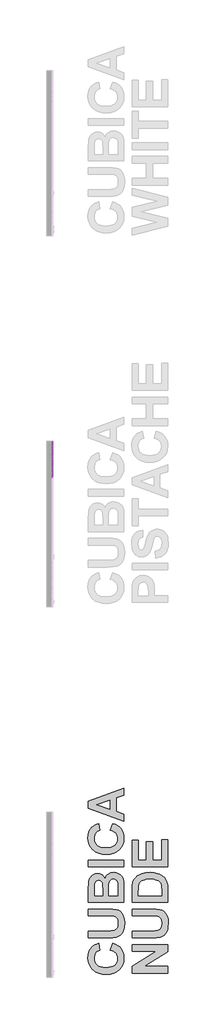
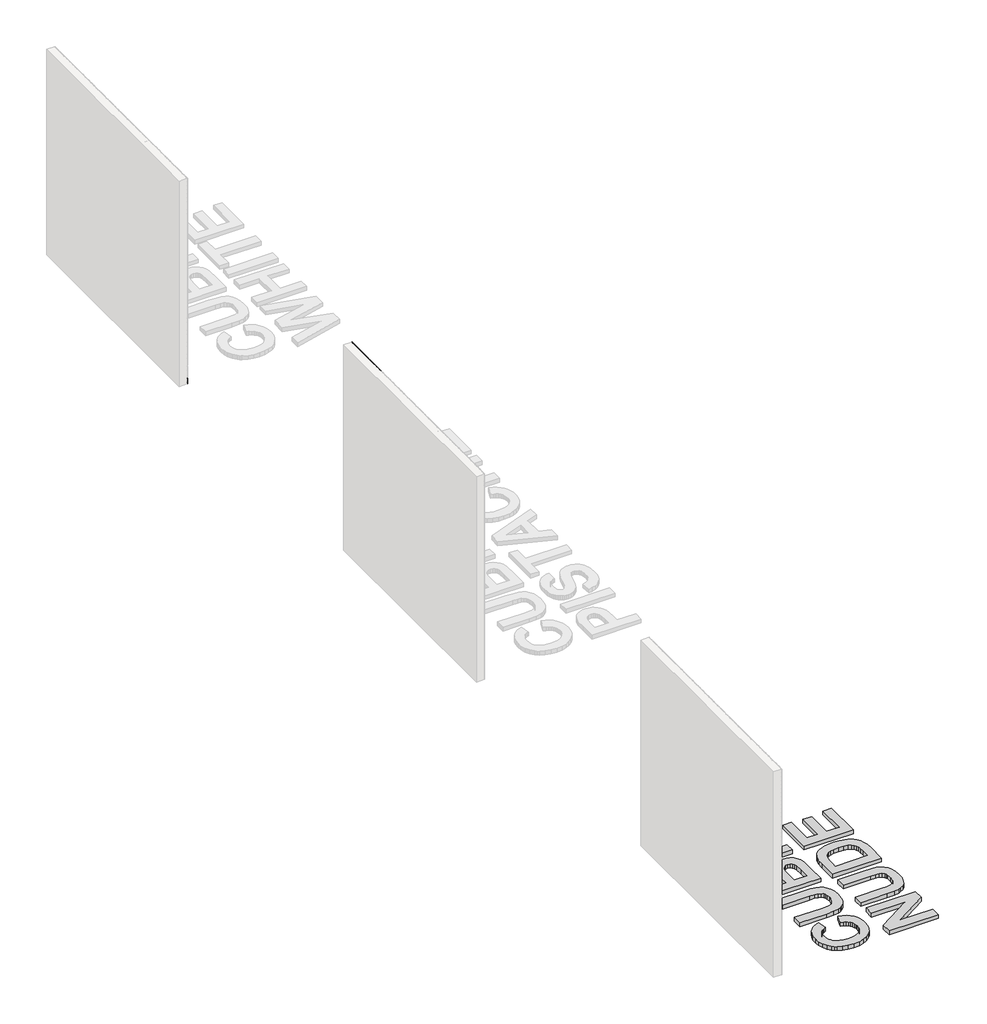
# One storey, part 97 of 121: 104 proxies.
"""IFC4 building model written with IfcOpenShell, lengths in millimetres."""

from ifc_helpers import new_model, si_unit, origin, origin_with_axes, place, context, project, spatial, polyline, outline, extrude, transform, mapped, element, save
from components import generic_models_b2b2c5c1, generic_models_9bf73f6f, generic_models_5d175859, generic_models_021229c9, generic_models_95f85f1d, generic_models_336a48c1, generic_models_3c04e8e5, generic_models_0bb79e7c, generic_models_61989c10, generic_models_65d4feed, generic_models_3c364290, generic_models_b212a934, generic_models_b652511d, generic_models_96c2da39

model = new_model("IFC4")

# Units and contexts
model_context = context("Model", 3, world=origin())
ifc_project = project(units=[si_unit("LENGTHUNIT", "METRE", prefix="MILLI")], contexts=[model_context])

# Site, building, storey
site = spatial("IfcSite", under=ifc_project)
building = spatial("IfcBuilding", under=site)
storey = spatial("IfcBuildingStorey", under=building, Name="PORTOBELLO - SHOWROOM", Elevation=0.0)

# Proxies
placement = place(None, origin())
generic_models_shape = generic_models_b2b2c5c1(model_context)
element("IfcBuildingElementProxy", 1, Name="PBSHOP - CUBICA PISTACHE 4,8X8,3 : CUBICA PISTACHE - POSIÇÃO 01", ObjectType="PBSHOP - CUBICA PISTACHE 4,8X8,3 : CUBICA PISTACHE - POSIÇÃO 01", at=placement, inside=storey, context=model_context, shape_type="MappedRepresentation", body=[
    mapped(generic_models_shape, transform((150369.5341846, 15203.7883805, 2486.3959564), x_axis=(0.0, 1.0, 0.0), y_axis=(0.0, 0.0, 1.0), z_axis=(1.0, 0.0, 0.0))),
])
element("IfcBuildingElementProxy", 2, Name="PBSHOP - CUBICA PISTACHE 4,8X8,3 : CUBICA PISTACHE - POSIÇÃO 01", ObjectType="PBSHOP - CUBICA PISTACHE 4,8X8,3 : CUBICA PISTACHE - POSIÇÃO 01", at=placement, inside=storey, context=model_context, shape_type="MappedRepresentation", body=[
    mapped(generic_models_shape, transform((150369.5341846, 15294.6276498, 2486.3959564), x_axis=(0.0, 1.0, 0.0), y_axis=(0.0, 0.0, 1.0), z_axis=(1.0, 0.0, 0.0))),
])
element("IfcBuildingElementProxy", 3, Name="PBSHOP - CUBICA PISTACHE 4,8X8,3 : CUBICA PISTACHE - POSIÇÃO 01", ObjectType="PBSHOP - CUBICA PISTACHE 4,8X8,3 : CUBICA PISTACHE - POSIÇÃO 01", at=placement, inside=storey, context=model_context, shape_type="MappedRepresentation", body=[
    mapped(generic_models_shape, transform((150369.5341846, 15385.466919, 2486.3959564), x_axis=(0.0, 1.0, 0.0), y_axis=(0.0, 0.0, 1.0), z_axis=(1.0, 0.0, 0.0))),
])
element("IfcBuildingElementProxy", 4, Name="PBSHOP - CUBICA PISTACHE 4,8X8,3 : CUBICA PISTACHE - POSIÇÃO 01", ObjectType="PBSHOP - CUBICA PISTACHE 4,8X8,3 : CUBICA PISTACHE - POSIÇÃO 01", at=placement, inside=storey, context=model_context, shape_type="MappedRepresentation", body=[
    mapped(generic_models_shape, transform((150369.5341846, 15476.3061883, 2486.3959564), x_axis=(0.0, 1.0, 0.0), y_axis=(0.0, 0.0, 1.0), z_axis=(1.0, 0.0, 0.0))),
])
element("IfcBuildingElementProxy", 5, Name="PBSHOP - CUBICA PISTACHE 4,8X8,3 : CUBICA PISTACHE - POSIÇÃO 01", ObjectType="PBSHOP - CUBICA PISTACHE 4,8X8,3 : CUBICA PISTACHE - POSIÇÃO 01", at=placement, inside=storey, context=model_context, shape_type="MappedRepresentation", body=[
    mapped(generic_models_shape, transform((150369.5341846, 15567.1454575, 2486.3959564), x_axis=(0.0, 1.0, 0.0), y_axis=(0.0, 0.0, 1.0), z_axis=(1.0, 0.0, 0.0))),
])
element("IfcBuildingElementProxy", 6, Name="PBSHOP - CUBICA PISTACHE 4,8X8,3 : CUBICA PISTACHE - POSIÇÃO 01", ObjectType="PBSHOP - CUBICA PISTACHE 4,8X8,3 : CUBICA PISTACHE - POSIÇÃO 01", at=placement, inside=storey, context=model_context, shape_type="MappedRepresentation", body=[
    mapped(generic_models_shape, transform((150369.5341846, 15067.5294767, 2565.3305948), x_axis=(0.0, 1.0, 0.0), y_axis=(0.0, 0.0, 1.0), z_axis=(1.0, 0.0, 0.0))),
])
element("IfcBuildingElementProxy", 7, Name="PBSHOP - CUBICA PISTACHE 4,8X8,3 : CUBICA PISTACHE - POSIÇÃO 01", ObjectType="PBSHOP - CUBICA PISTACHE 4,8X8,3 : CUBICA PISTACHE - POSIÇÃO 01", at=placement, inside=storey, context=model_context, shape_type="MappedRepresentation", body=[
    mapped(generic_models_shape, transform((150369.5341846, 15158.3687459, 2565.3305948), x_axis=(0.0, 1.0, 0.0), y_axis=(0.0, 0.0, 1.0), z_axis=(1.0, 0.0, 0.0))),
])
element("IfcBuildingElementProxy", 8, Name="PBSHOP - CUBICA PISTACHE 4,8X8,3 : CUBICA PISTACHE - POSIÇÃO 01", ObjectType="PBSHOP - CUBICA PISTACHE 4,8X8,3 : CUBICA PISTACHE - POSIÇÃO 01", at=placement, inside=storey, context=model_context, shape_type="MappedRepresentation", body=[
    mapped(generic_models_shape, transform((150369.5341846, 15249.2080152, 2565.3305948), x_axis=(0.0, 1.0, 0.0), y_axis=(0.0, 0.0, 1.0), z_axis=(1.0, 0.0, 0.0))),
])
element("IfcBuildingElementProxy", 9, Name="PBSHOP - CUBICA PISTACHE 4,8X8,3 : CUBICA PISTACHE - POSIÇÃO 01", ObjectType="PBSHOP - CUBICA PISTACHE 4,8X8,3 : CUBICA PISTACHE - POSIÇÃO 01", at=placement, inside=storey, context=model_context, shape_type="MappedRepresentation", body=[
    mapped(generic_models_shape, transform((150369.5341846, 15340.0472844, 2565.3305948), x_axis=(0.0, 1.0, 0.0), y_axis=(0.0, 0.0, 1.0), z_axis=(1.0, 0.0, 0.0))),
])
element("IfcBuildingElementProxy", 10, Name="PBSHOP - CUBICA PISTACHE 4,8X8,3 : CUBICA PISTACHE - POSIÇÃO 01", ObjectType="PBSHOP - CUBICA PISTACHE 4,8X8,3 : CUBICA PISTACHE - POSIÇÃO 01", at=placement, inside=storey, context=model_context, shape_type="MappedRepresentation", body=[
    mapped(generic_models_shape, transform((150369.5341846, 15430.8865536, 2565.3305948), x_axis=(0.0, 1.0, 0.0), y_axis=(0.0, 0.0, 1.0), z_axis=(1.0, 0.0, 0.0))),
])
element("IfcBuildingElementProxy", 11, Name="PBSHOP - CUBICA PISTACHE 4,8X8,3 : CUBICA PISTACHE - POSIÇÃO 01", ObjectType="PBSHOP - CUBICA PISTACHE 4,8X8,3 : CUBICA PISTACHE - POSIÇÃO 01", at=placement, inside=storey, context=model_context, shape_type="MappedRepresentation", body=[
    mapped(generic_models_shape, transform((150369.5341846, 15521.7258229, 2565.3305948), x_axis=(0.0, 1.0, 0.0), y_axis=(0.0, 0.0, 1.0), z_axis=(1.0, 0.0, 0.0))),
])
element("IfcBuildingElementProxy", 12, Name="PBSHOP - CUBICA PISTACHE 4,8X8,3 : CUBICA PISTACHE - POSIÇÃO 01", ObjectType="PBSHOP - CUBICA PISTACHE 4,8X8,3 : CUBICA PISTACHE - POSIÇÃO 01", at=placement, inside=storey, context=model_context, shape_type="MappedRepresentation", body=[
    mapped(generic_models_shape, transform((150369.5341846, 15022.109842, 2644.2652332), x_axis=(0.0, 1.0, 0.0), y_axis=(0.0, 0.0, 1.0), z_axis=(1.0, 0.0, 0.0))),
])
element("IfcBuildingElementProxy", 13, Name="PBSHOP - CUBICA PISTACHE 4,8X8,3 : CUBICA PISTACHE - POSIÇÃO 01", ObjectType="PBSHOP - CUBICA PISTACHE 4,8X8,3 : CUBICA PISTACHE - POSIÇÃO 01", at=placement, inside=storey, context=model_context, shape_type="MappedRepresentation", body=[
    mapped(generic_models_shape, transform((150369.5341846, 15112.9491113, 2644.2652332), x_axis=(0.0, 1.0, 0.0), y_axis=(0.0, 0.0, 1.0), z_axis=(1.0, 0.0, 0.0))),
])
element("IfcBuildingElementProxy", 14, Name="PBSHOP - CUBICA PISTACHE 4,8X8,3 : CUBICA PISTACHE - POSIÇÃO 01", ObjectType="PBSHOP - CUBICA PISTACHE 4,8X8,3 : CUBICA PISTACHE - POSIÇÃO 01", at=placement, inside=storey, context=model_context, shape_type="MappedRepresentation", body=[
    mapped(generic_models_shape, transform((150369.5341846, 15203.7883805, 2644.2652332), x_axis=(0.0, 1.0, 0.0), y_axis=(0.0, 0.0, 1.0), z_axis=(1.0, 0.0, 0.0))),
])
element("IfcBuildingElementProxy", 15, Name="PBSHOP - CUBICA PISTACHE 4,8X8,3 : CUBICA PISTACHE - POSIÇÃO 01", ObjectType="PBSHOP - CUBICA PISTACHE 4,8X8,3 : CUBICA PISTACHE - POSIÇÃO 01", at=placement, inside=storey, context=model_context, shape_type="MappedRepresentation", body=[
    mapped(generic_models_shape, transform((150369.5341846, 15294.6276498, 2644.2652332), x_axis=(0.0, 1.0, 0.0), y_axis=(0.0, 0.0, 1.0), z_axis=(1.0, 0.0, 0.0))),
])
element("IfcBuildingElementProxy", 16, Name="PBSHOP - CUBICA PISTACHE 4,8X8,3 : CUBICA PISTACHE - POSIÇÃO 01", ObjectType="PBSHOP - CUBICA PISTACHE 4,8X8,3 : CUBICA PISTACHE - POSIÇÃO 01", at=placement, inside=storey, context=model_context, shape_type="MappedRepresentation", body=[
    mapped(generic_models_shape, transform((150369.5341846, 15385.466919, 2644.2652332), x_axis=(0.0, 1.0, 0.0), y_axis=(0.0, 0.0, 1.0), z_axis=(1.0, 0.0, 0.0))),
])
element("IfcBuildingElementProxy", 17, Name="PBSHOP - CUBICA PISTACHE 4,8X8,3 : CUBICA PISTACHE - POSIÇÃO 01", ObjectType="PBSHOP - CUBICA PISTACHE 4,8X8,3 : CUBICA PISTACHE - POSIÇÃO 01", at=placement, inside=storey, context=model_context, shape_type="MappedRepresentation", body=[
    mapped(generic_models_shape, transform((150369.5341846, 15476.3061883, 2644.2652332), x_axis=(0.0, 1.0, 0.0), y_axis=(0.0, 0.0, 1.0), z_axis=(1.0, 0.0, 0.0))),
])
element("IfcBuildingElementProxy", 18, Name="PBSHOP - CUBICA PISTACHE 4,8X8,3 : CUBICA PISTACHE - POSIÇÃO 01", ObjectType="PBSHOP - CUBICA PISTACHE 4,8X8,3 : CUBICA PISTACHE - POSIÇÃO 01", at=placement, inside=storey, context=model_context, shape_type="MappedRepresentation", body=[
    mapped(generic_models_shape, transform((150369.5341846, 15567.1454575, 2644.2652332), x_axis=(0.0, 1.0, 0.0), y_axis=(0.0, 0.0, 1.0), z_axis=(1.0, 0.0, 0.0))),
])
generic_models_2_shape = generic_models_9bf73f6f(model_context)
element("IfcBuildingElementProxy", 19, Name="PBSHOP - CUBICA PISTACHE 4,8X8,3 : CUBICA PISTACHE - POSIÇÃO 03", ObjectType="PBSHOP - CUBICA PISTACHE 4,8X8,3 : CUBICA PISTACHE - POSIÇÃO 03", at=placement, inside=storey, context=model_context, shape_type="MappedRepresentation", body=[
    mapped(generic_models_2_shape, transform((150369.5341846, 15090.2414531, 2446.8874268), x_axis=(0.0, 1.0, 0.0), y_axis=(0.0, 0.0, 1.0), z_axis=(1.0, 0.0, 0.0))),
])
element("IfcBuildingElementProxy", 20, Name="PBSHOP - CUBICA PISTACHE 4,8X8,3 : CUBICA PISTACHE - POSIÇÃO 03", ObjectType="PBSHOP - CUBICA PISTACHE 4,8X8,3 : CUBICA PISTACHE - POSIÇÃO 03", at=placement, inside=storey, context=model_context, shape_type="MappedRepresentation", body=[
    mapped(generic_models_2_shape, transform((150369.5341846, 15181.0807224, 2446.8874268), x_axis=(0.0, 1.0, 0.0), y_axis=(0.0, 0.0, 1.0), z_axis=(1.0, 0.0, 0.0))),
])
element("IfcBuildingElementProxy", 21, Name="PBSHOP - CUBICA PISTACHE 4,8X8,3 : CUBICA PISTACHE - POSIÇÃO 03", ObjectType="PBSHOP - CUBICA PISTACHE 4,8X8,3 : CUBICA PISTACHE - POSIÇÃO 03", at=placement, inside=storey, context=model_context, shape_type="MappedRepresentation", body=[
    mapped(generic_models_2_shape, transform((150369.5341846, 15271.9199916, 2446.8874268), x_axis=(0.0, 1.0, 0.0), y_axis=(0.0, 0.0, 1.0), z_axis=(1.0, 0.0, 0.0))),
])
element("IfcBuildingElementProxy", 22, Name="PBSHOP - CUBICA PISTACHE 4,8X8,3 : CUBICA PISTACHE - POSIÇÃO 03", ObjectType="PBSHOP - CUBICA PISTACHE 4,8X8,3 : CUBICA PISTACHE - POSIÇÃO 03", at=placement, inside=storey, context=model_context, shape_type="MappedRepresentation", body=[
    mapped(generic_models_2_shape, transform((150369.5341846, 15362.7592609, 2446.8874268), x_axis=(0.0, 1.0, 0.0), y_axis=(0.0, 0.0, 1.0), z_axis=(1.0, 0.0, 0.0))),
])
element("IfcBuildingElementProxy", 23, Name="PBSHOP - CUBICA PISTACHE 4,8X8,3 : CUBICA PISTACHE - POSIÇÃO 03", ObjectType="PBSHOP - CUBICA PISTACHE 4,8X8,3 : CUBICA PISTACHE - POSIÇÃO 03", at=placement, inside=storey, context=model_context, shape_type="MappedRepresentation", body=[
    mapped(generic_models_2_shape, transform((150369.5341846, 15453.5985301, 2446.8874268), x_axis=(0.0, 1.0, 0.0), y_axis=(0.0, 0.0, 1.0), z_axis=(1.0, 0.0, 0.0))),
])
element("IfcBuildingElementProxy", 24, Name="PBSHOP - CUBICA PISTACHE 4,8X8,3 : CUBICA PISTACHE - POSIÇÃO 03", ObjectType="PBSHOP - CUBICA PISTACHE 4,8X8,3 : CUBICA PISTACHE - POSIÇÃO 03", at=placement, inside=storey, context=model_context, shape_type="MappedRepresentation", body=[
    mapped(generic_models_2_shape, transform((150369.5341846, 15544.4377994, 2446.8874268), x_axis=(0.0, 1.0, 0.0), y_axis=(0.0, 0.0, 1.0), z_axis=(1.0, 0.0, 0.0))),
])
element("IfcBuildingElementProxy", 25, Name="PBSHOP - CUBICA PISTACHE 4,8X8,3 : CUBICA PISTACHE - POSIÇÃO 03", ObjectType="PBSHOP - CUBICA PISTACHE 4,8X8,3 : CUBICA PISTACHE - POSIÇÃO 03", at=placement, inside=storey, context=model_context, shape_type="MappedRepresentation", body=[
    mapped(generic_models_2_shape, transform((150369.5341846, 15044.8218185, 2525.8220652), x_axis=(0.0, 1.0, 0.0), y_axis=(0.0, 0.0, 1.0), z_axis=(1.0, 0.0, 0.0))),
])
element("IfcBuildingElementProxy", 26, Name="PBSHOP - CUBICA PISTACHE 4,8X8,3 : CUBICA PISTACHE - POSIÇÃO 03", ObjectType="PBSHOP - CUBICA PISTACHE 4,8X8,3 : CUBICA PISTACHE - POSIÇÃO 03", at=placement, inside=storey, context=model_context, shape_type="MappedRepresentation", body=[
    mapped(generic_models_2_shape, transform((150369.5341846, 15135.6610878, 2525.8220652), x_axis=(0.0, 1.0, 0.0), y_axis=(0.0, 0.0, 1.0), z_axis=(1.0, 0.0, 0.0))),
])
element("IfcBuildingElementProxy", 27, Name="PBSHOP - CUBICA PISTACHE 4,8X8,3 : CUBICA PISTACHE - POSIÇÃO 03", ObjectType="PBSHOP - CUBICA PISTACHE 4,8X8,3 : CUBICA PISTACHE - POSIÇÃO 03", at=placement, inside=storey, context=model_context, shape_type="MappedRepresentation", body=[
    mapped(generic_models_2_shape, transform((150369.5341846, 15226.500357, 2525.8220652), x_axis=(0.0, 1.0, 0.0), y_axis=(0.0, 0.0, 1.0), z_axis=(1.0, 0.0, 0.0))),
])
element("IfcBuildingElementProxy", 28, Name="PBSHOP - CUBICA PISTACHE 4,8X8,3 : CUBICA PISTACHE - POSIÇÃO 03", ObjectType="PBSHOP - CUBICA PISTACHE 4,8X8,3 : CUBICA PISTACHE - POSIÇÃO 03", at=placement, inside=storey, context=model_context, shape_type="MappedRepresentation", body=[
    mapped(generic_models_2_shape, transform((150369.5341846, 15317.3396263, 2525.8220652), x_axis=(0.0, 1.0, 0.0), y_axis=(0.0, 0.0, 1.0), z_axis=(1.0, 0.0, 0.0))),
])
element("IfcBuildingElementProxy", 29, Name="PBSHOP - CUBICA PISTACHE 4,8X8,3 : CUBICA PISTACHE - POSIÇÃO 03", ObjectType="PBSHOP - CUBICA PISTACHE 4,8X8,3 : CUBICA PISTACHE - POSIÇÃO 03", at=placement, inside=storey, context=model_context, shape_type="MappedRepresentation", body=[
    mapped(generic_models_2_shape, transform((150369.5341846, 15408.1788955, 2525.8220652), x_axis=(0.0, 1.0, 0.0), y_axis=(0.0, 0.0, 1.0), z_axis=(1.0, 0.0, 0.0))),
])
element("IfcBuildingElementProxy", 30, Name="PBSHOP - CUBICA PISTACHE 4,8X8,3 : CUBICA PISTACHE - POSIÇÃO 03", ObjectType="PBSHOP - CUBICA PISTACHE 4,8X8,3 : CUBICA PISTACHE - POSIÇÃO 03", at=placement, inside=storey, context=model_context, shape_type="MappedRepresentation", body=[
    mapped(generic_models_2_shape, transform((150369.5341846, 15499.0181647, 2525.8220652), x_axis=(0.0, 1.0, 0.0), y_axis=(0.0, 0.0, 1.0), z_axis=(1.0, 0.0, 0.0))),
])
element("IfcBuildingElementProxy", 31, Name="PBSHOP - CUBICA PISTACHE 4,8X8,3 : CUBICA PISTACHE - POSIÇÃO 03", ObjectType="PBSHOP - CUBICA PISTACHE 4,8X8,3 : CUBICA PISTACHE - POSIÇÃO 03", at=placement, inside=storey, context=model_context, shape_type="MappedRepresentation", body=[
    mapped(generic_models_2_shape, transform((150369.5341846, 15090.2414531, 2604.7567035), x_axis=(0.0, 1.0, 0.0), y_axis=(0.0, 0.0, 1.0), z_axis=(1.0, 0.0, 0.0))),
])
element("IfcBuildingElementProxy", 32, Name="PBSHOP - CUBICA PISTACHE 4,8X8,3 : CUBICA PISTACHE - POSIÇÃO 03", ObjectType="PBSHOP - CUBICA PISTACHE 4,8X8,3 : CUBICA PISTACHE - POSIÇÃO 03", at=placement, inside=storey, context=model_context, shape_type="MappedRepresentation", body=[
    mapped(generic_models_2_shape, transform((150369.5341846, 15181.0807224, 2604.7567035), x_axis=(0.0, 1.0, 0.0), y_axis=(0.0, 0.0, 1.0), z_axis=(1.0, 0.0, 0.0))),
])
element("IfcBuildingElementProxy", 33, Name="PBSHOP - CUBICA PISTACHE 4,8X8,3 : CUBICA PISTACHE - POSIÇÃO 03", ObjectType="PBSHOP - CUBICA PISTACHE 4,8X8,3 : CUBICA PISTACHE - POSIÇÃO 03", at=placement, inside=storey, context=model_context, shape_type="MappedRepresentation", body=[
    mapped(generic_models_2_shape, transform((150369.5341846, 15271.9199916, 2604.7567035), x_axis=(0.0, 1.0, 0.0), y_axis=(0.0, 0.0, 1.0), z_axis=(1.0, 0.0, 0.0))),
])
element("IfcBuildingElementProxy", 34, Name="PBSHOP - CUBICA PISTACHE 4,8X8,3 : CUBICA PISTACHE - POSIÇÃO 03", ObjectType="PBSHOP - CUBICA PISTACHE 4,8X8,3 : CUBICA PISTACHE - POSIÇÃO 03", at=placement, inside=storey, context=model_context, shape_type="MappedRepresentation", body=[
    mapped(generic_models_2_shape, transform((150369.5341846, 15362.7592609, 2604.7567035), x_axis=(0.0, 1.0, 0.0), y_axis=(0.0, 0.0, 1.0), z_axis=(1.0, 0.0, 0.0))),
])
element("IfcBuildingElementProxy", 35, Name="PBSHOP - CUBICA PISTACHE 4,8X8,3 : CUBICA PISTACHE - POSIÇÃO 03", ObjectType="PBSHOP - CUBICA PISTACHE 4,8X8,3 : CUBICA PISTACHE - POSIÇÃO 03", at=placement, inside=storey, context=model_context, shape_type="MappedRepresentation", body=[
    mapped(generic_models_2_shape, transform((150369.5341846, 15453.5985301, 2604.7567035), x_axis=(0.0, 1.0, 0.0), y_axis=(0.0, 0.0, 1.0), z_axis=(1.0, 0.0, 0.0))),
])
element("IfcBuildingElementProxy", 36, Name="PBSHOP - CUBICA PISTACHE 4,8X8,3 : CUBICA PISTACHE - POSIÇÃO 03", ObjectType="PBSHOP - CUBICA PISTACHE 4,8X8,3 : CUBICA PISTACHE - POSIÇÃO 03", at=placement, inside=storey, context=model_context, shape_type="MappedRepresentation", body=[
    mapped(generic_models_2_shape, transform((150369.5341846, 15544.4377994, 2604.7567035), x_axis=(0.0, 1.0, 0.0), y_axis=(0.0, 0.0, 1.0), z_axis=(1.0, 0.0, 0.0))),
])
element("IfcBuildingElementProxy", 37, Name="PBSHOP - CUBICA WHITE 4,8X8,3 : CUBICA WHITE - POSIÇÃO 01", ObjectType="PBSHOP - CUBICA WHITE 4,8X8,3 : CUBICA WHITE - POSIÇÃO 01", at=placement, inside=storey, context=model_context, shape_type="MappedRepresentation", body=[
    mapped(generic_models_shape, transform((150369.5341846, 19196.5477456, 39.4221668), x_axis=(0.0, 1.0, 0.0), y_axis=(0.0, 0.0, 1.0), z_axis=(1.0, 0.0, 0.0))),
])
element("IfcBuildingElementProxy", 38, Name="PBSHOP - CUBICA WHITE 4,8X8,3 : CUBICA WHITE - POSIÇÃO 01", ObjectType="PBSHOP - CUBICA WHITE 4,8X8,3 : CUBICA WHITE - POSIÇÃO 01", at=placement, inside=storey, context=model_context, shape_type="MappedRepresentation", body=[
    mapped(generic_models_shape, transform((150369.5341846, 19287.3870148, 39.4221668), x_axis=(0.0, 1.0, 0.0), y_axis=(0.0, 0.0, 1.0), z_axis=(1.0, 0.0, 0.0))),
])
element("IfcBuildingElementProxy", 39, Name="PBSHOP - CUBICA WHITE 4,8X8,3 : CUBICA WHITE - POSIÇÃO 01", ObjectType="PBSHOP - CUBICA WHITE 4,8X8,3 : CUBICA WHITE - POSIÇÃO 01", at=placement, inside=storey, context=model_context, shape_type="MappedRepresentation", body=[
    mapped(generic_models_shape, transform((150369.5341846, 19378.2262841, 39.4221668), x_axis=(0.0, 1.0, 0.0), y_axis=(0.0, 0.0, 1.0), z_axis=(1.0, 0.0, 0.0))),
])
element("IfcBuildingElementProxy", 40, Name="PBSHOP - CUBICA WHITE 4,8X8,3 : CUBICA WHITE - POSIÇÃO 01", ObjectType="PBSHOP - CUBICA WHITE 4,8X8,3 : CUBICA WHITE - POSIÇÃO 01", at=placement, inside=storey, context=model_context, shape_type="MappedRepresentation", body=[
    mapped(generic_models_shape, transform((150369.5341846, 19469.0655533, 39.4221668), x_axis=(0.0, 1.0, 0.0), y_axis=(0.0, 0.0, 1.0), z_axis=(1.0, 0.0, 0.0))),
])
element("IfcBuildingElementProxy", 41, Name="PBSHOP - CUBICA WHITE 4,8X8,3 : CUBICA WHITE - POSIÇÃO 01", ObjectType="PBSHOP - CUBICA WHITE 4,8X8,3 : CUBICA WHITE - POSIÇÃO 01", at=placement, inside=storey, context=model_context, shape_type="MappedRepresentation", body=[
    mapped(generic_models_shape, transform((150369.5341846, 19559.9048225, 39.4221668), x_axis=(0.0, 1.0, 0.0), y_axis=(0.0, 0.0, 1.0), z_axis=(1.0, 0.0, 0.0))),
])
element("IfcBuildingElementProxy", 42, Name="PBSHOP - CUBICA WHITE 4,8X8,3 : CUBICA WHITE - POSIÇÃO 01", ObjectType="PBSHOP - CUBICA WHITE 4,8X8,3 : CUBICA WHITE - POSIÇÃO 01", at=placement, inside=storey, context=model_context, shape_type="MappedRepresentation", body=[
    mapped(generic_models_shape, transform((150369.5341846, 19650.7440918, 39.4221668), x_axis=(0.0, 1.0, 0.0), y_axis=(0.0, 0.0, 1.0), z_axis=(1.0, 0.0, 0.0))),
])
element("IfcBuildingElementProxy", 43, Name="PBSHOP - CUBICA WHITE 4,8X8,3 : CUBICA WHITE - POSIÇÃO 01", ObjectType="PBSHOP - CUBICA WHITE 4,8X8,3 : CUBICA WHITE - POSIÇÃO 01", at=placement, inside=storey, context=model_context, shape_type="MappedRepresentation", body=[
    mapped(generic_models_shape, transform((150369.5341846, 19741.583361, 39.4221668), x_axis=(0.0, 1.0, 0.0), y_axis=(0.0, 0.0, 1.0), z_axis=(1.0, 0.0, 0.0))),
])
element("IfcBuildingElementProxy", 44, Name="PBSHOP - CUBICA WHITE 4,8X8,3 : CUBICA WHITE - POSIÇÃO 01", ObjectType="PBSHOP - CUBICA WHITE 4,8X8,3 : CUBICA WHITE - POSIÇÃO 01", at=placement, inside=storey, context=model_context, shape_type="MappedRepresentation", body=[
    mapped(generic_models_shape, transform((150369.5341846, 19832.4226303, 39.4221668), x_axis=(0.0, 1.0, 0.0), y_axis=(0.0, 0.0, 1.0), z_axis=(1.0, 0.0, 0.0))),
])
element("IfcBuildingElementProxy", 45, Name="PBSHOP - CUBICA WHITE 4,8X8,3 : CUBICA WHITE - POSIÇÃO 01", ObjectType="PBSHOP - CUBICA WHITE 4,8X8,3 : CUBICA WHITE - POSIÇÃO 01", at=placement, inside=storey, context=model_context, shape_type="MappedRepresentation", body=[
    mapped(generic_models_shape, transform((150369.5341846, 19923.2618995, 39.4221668), x_axis=(0.0, 1.0, 0.0), y_axis=(0.0, 0.0, 1.0), z_axis=(1.0, 0.0, 0.0))),
])
generic_models_3_shape = generic_models_5d175859(model_context)
element("IfcBuildingElementProxy", 46, Name="PBSHOP - CUBICA PISTACHE 4,8X8,3 : CUBICA PISTACHE - POSIÇÃO 01", ObjectType="PBSHOP - CUBICA PISTACHE 4,8X8,3 : CUBICA PISTACHE - POSIÇÃO 01", at=placement, inside=storey, context=model_context, shape_type="MappedRepresentation", body=[
    mapped(generic_models_3_shape, transform((150369.5341846, 15158.3730642, 2486.3959564), x_axis=(0.0, -1.0, 0.0), y_axis=(0.0, 0.0, -1.0), z_axis=(1.0, 0.0, 0.0))),
])
element("IfcBuildingElementProxy", 47, Name="PBSHOP - CUBICA PISTACHE 4,8X8,3 : CUBICA PISTACHE - POSIÇÃO 01", ObjectType="PBSHOP - CUBICA PISTACHE 4,8X8,3 : CUBICA PISTACHE - POSIÇÃO 01", at=placement, inside=storey, context=model_context, shape_type="MappedRepresentation", body=[
    mapped(generic_models_3_shape, transform((150369.5341846, 15249.2123335, 2486.3959564), x_axis=(0.0, -1.0, 0.0), y_axis=(0.0, 0.0, -1.0), z_axis=(1.0, 0.0, 0.0))),
])
element("IfcBuildingElementProxy", 48, Name="PBSHOP - CUBICA PISTACHE 4,8X8,3 : CUBICA PISTACHE - POSIÇÃO 01", ObjectType="PBSHOP - CUBICA PISTACHE 4,8X8,3 : CUBICA PISTACHE - POSIÇÃO 01", at=placement, inside=storey, context=model_context, shape_type="MappedRepresentation", body=[
    mapped(generic_models_3_shape, transform((150369.5341846, 15340.0516027, 2486.3959564), x_axis=(0.0, -1.0, 0.0), y_axis=(0.0, 0.0, -1.0), z_axis=(1.0, 0.0, 0.0))),
])
element("IfcBuildingElementProxy", 49, Name="PBSHOP - CUBICA PISTACHE 4,8X8,3 : CUBICA PISTACHE - POSIÇÃO 01", ObjectType="PBSHOP - CUBICA PISTACHE 4,8X8,3 : CUBICA PISTACHE - POSIÇÃO 01", at=placement, inside=storey, context=model_context, shape_type="MappedRepresentation", body=[
    mapped(generic_models_3_shape, transform((150369.5341846, 15430.890872, 2486.3959564), x_axis=(0.0, -1.0, 0.0), y_axis=(0.0, 0.0, -1.0), z_axis=(1.0, 0.0, 0.0))),
])
element("IfcBuildingElementProxy", 50, Name="PBSHOP - CUBICA PISTACHE 4,8X8,3 : CUBICA PISTACHE - POSIÇÃO 01", ObjectType="PBSHOP - CUBICA PISTACHE 4,8X8,3 : CUBICA PISTACHE - POSIÇÃO 01", at=placement, inside=storey, context=model_context, shape_type="MappedRepresentation", body=[
    mapped(generic_models_3_shape, transform((150369.5341846, 15521.7301412, 2486.3959564), x_axis=(0.0, -1.0, 0.0), y_axis=(0.0, 0.0, -1.0), z_axis=(1.0, 0.0, 0.0))),
])
element("IfcBuildingElementProxy", 51, Name="PBSHOP - CUBICA PISTACHE 4,8X8,3 : CUBICA PISTACHE - POSIÇÃO 01", ObjectType="PBSHOP - CUBICA PISTACHE 4,8X8,3 : CUBICA PISTACHE - POSIÇÃO 01", at=placement, inside=storey, context=model_context, shape_type="MappedRepresentation", body=[
    mapped(generic_models_3_shape, transform((150369.5341846, 15022.1141604, 2565.3305948), x_axis=(0.0, -1.0, 0.0), y_axis=(0.0, 0.0, -1.0), z_axis=(1.0, 0.0, 0.0))),
])
element("IfcBuildingElementProxy", 52, Name="PBSHOP - CUBICA PISTACHE 4,8X8,3 : CUBICA PISTACHE - POSIÇÃO 01", ObjectType="PBSHOP - CUBICA PISTACHE 4,8X8,3 : CUBICA PISTACHE - POSIÇÃO 01", at=placement, inside=storey, context=model_context, shape_type="MappedRepresentation", body=[
    mapped(generic_models_3_shape, transform((150369.5341846, 15112.9534296, 2565.3305948), x_axis=(0.0, -1.0, 0.0), y_axis=(0.0, 0.0, -1.0), z_axis=(1.0, 0.0, 0.0))),
])
element("IfcBuildingElementProxy", 53, Name="PBSHOP - CUBICA PISTACHE 4,8X8,3 : CUBICA PISTACHE - POSIÇÃO 01", ObjectType="PBSHOP - CUBICA PISTACHE 4,8X8,3 : CUBICA PISTACHE - POSIÇÃO 01", at=placement, inside=storey, context=model_context, shape_type="MappedRepresentation", body=[
    mapped(generic_models_3_shape, transform((150369.5341846, 15203.7926989, 2565.3305948), x_axis=(0.0, -1.0, 0.0), y_axis=(0.0, 0.0, -1.0), z_axis=(1.0, 0.0, 0.0))),
])
element("IfcBuildingElementProxy", 54, Name="PBSHOP - CUBICA PISTACHE 4,8X8,3 : CUBICA PISTACHE - POSIÇÃO 01", ObjectType="PBSHOP - CUBICA PISTACHE 4,8X8,3 : CUBICA PISTACHE - POSIÇÃO 01", at=placement, inside=storey, context=model_context, shape_type="MappedRepresentation", body=[
    mapped(generic_models_3_shape, transform((150369.5341846, 15294.6319681, 2565.3305948), x_axis=(0.0, -1.0, 0.0), y_axis=(0.0, 0.0, -1.0), z_axis=(1.0, 0.0, 0.0))),
])
element("IfcBuildingElementProxy", 55, Name="PBSHOP - CUBICA PISTACHE 4,8X8,3 : CUBICA PISTACHE - POSIÇÃO 01", ObjectType="PBSHOP - CUBICA PISTACHE 4,8X8,3 : CUBICA PISTACHE - POSIÇÃO 01", at=placement, inside=storey, context=model_context, shape_type="MappedRepresentation", body=[
    mapped(generic_models_3_shape, transform((150369.5341846, 15385.4712374, 2565.3305948), x_axis=(0.0, -1.0, 0.0), y_axis=(0.0, 0.0, -1.0), z_axis=(1.0, 0.0, 0.0))),
])
element("IfcBuildingElementProxy", 56, Name="PBSHOP - CUBICA PISTACHE 4,8X8,3 : CUBICA PISTACHE - POSIÇÃO 01", ObjectType="PBSHOP - CUBICA PISTACHE 4,8X8,3 : CUBICA PISTACHE - POSIÇÃO 01", at=placement, inside=storey, context=model_context, shape_type="MappedRepresentation", body=[
    mapped(generic_models_3_shape, transform((150369.5341846, 15476.3105066, 2565.3305948), x_axis=(0.0, -1.0, 0.0), y_axis=(0.0, 0.0, -1.0), z_axis=(1.0, 0.0, 0.0))),
])
element("IfcBuildingElementProxy", 57, Name="PBSHOP - CUBICA PISTACHE 4,8X8,3 : CUBICA PISTACHE - POSIÇÃO 01", ObjectType="PBSHOP - CUBICA PISTACHE 4,8X8,3 : CUBICA PISTACHE - POSIÇÃO 01", at=placement, inside=storey, context=model_context, shape_type="MappedRepresentation", body=[
    mapped(generic_models_3_shape, transform((150369.5341846, 15567.1497758, 2565.3305948), x_axis=(0.0, -1.0, 0.0), y_axis=(0.0, 0.0, -1.0), z_axis=(1.0, 0.0, 0.0))),
])
element("IfcBuildingElementProxy", 58, Name="PBSHOP - CUBICA PISTACHE 4,8X8,3 : CUBICA PISTACHE - POSIÇÃO 01", ObjectType="PBSHOP - CUBICA PISTACHE 4,8X8,3 : CUBICA PISTACHE - POSIÇÃO 01", at=placement, inside=storey, context=model_context, shape_type="MappedRepresentation", body=[
    mapped(generic_models_3_shape, transform((150369.5341846, 15067.533795, 2644.2652332), x_axis=(0.0, -1.0, 0.0), y_axis=(0.0, 0.0, -1.0), z_axis=(1.0, 0.0, 0.0))),
])
element("IfcBuildingElementProxy", 59, Name="PBSHOP - CUBICA PISTACHE 4,8X8,3 : CUBICA PISTACHE - POSIÇÃO 01", ObjectType="PBSHOP - CUBICA PISTACHE 4,8X8,3 : CUBICA PISTACHE - POSIÇÃO 01", at=placement, inside=storey, context=model_context, shape_type="MappedRepresentation", body=[
    mapped(generic_models_3_shape, transform((150369.5341846, 15158.3730642, 2644.2652332), x_axis=(0.0, -1.0, 0.0), y_axis=(0.0, 0.0, -1.0), z_axis=(1.0, 0.0, 0.0))),
])
element("IfcBuildingElementProxy", 60, Name="PBSHOP - CUBICA PISTACHE 4,8X8,3 : CUBICA PISTACHE - POSIÇÃO 01", ObjectType="PBSHOP - CUBICA PISTACHE 4,8X8,3 : CUBICA PISTACHE - POSIÇÃO 01", at=placement, inside=storey, context=model_context, shape_type="MappedRepresentation", body=[
    mapped(generic_models_3_shape, transform((150369.5341846, 15249.2123335, 2644.2652332), x_axis=(0.0, -1.0, 0.0), y_axis=(0.0, 0.0, -1.0), z_axis=(1.0, 0.0, 0.0))),
])
element("IfcBuildingElementProxy", 61, Name="PBSHOP - CUBICA PISTACHE 4,8X8,3 : CUBICA PISTACHE - POSIÇÃO 01", ObjectType="PBSHOP - CUBICA PISTACHE 4,8X8,3 : CUBICA PISTACHE - POSIÇÃO 01", at=placement, inside=storey, context=model_context, shape_type="MappedRepresentation", body=[
    mapped(generic_models_3_shape, transform((150369.5341846, 15340.0516027, 2644.2652332), x_axis=(0.0, -1.0, 0.0), y_axis=(0.0, 0.0, -1.0), z_axis=(1.0, 0.0, 0.0))),
])
element("IfcBuildingElementProxy", 62, Name="PBSHOP - CUBICA PISTACHE 4,8X8,3 : CUBICA PISTACHE - POSIÇÃO 01", ObjectType="PBSHOP - CUBICA PISTACHE 4,8X8,3 : CUBICA PISTACHE - POSIÇÃO 01", at=placement, inside=storey, context=model_context, shape_type="MappedRepresentation", body=[
    mapped(generic_models_3_shape, transform((150369.5341846, 15430.890872, 2644.2652332), x_axis=(0.0, -1.0, 0.0), y_axis=(0.0, 0.0, -1.0), z_axis=(1.0, 0.0, 0.0))),
])
element("IfcBuildingElementProxy", 63, Name="PBSHOP - CUBICA PISTACHE 4,8X8,3 : CUBICA PISTACHE - POSIÇÃO 01", ObjectType="PBSHOP - CUBICA PISTACHE 4,8X8,3 : CUBICA PISTACHE - POSIÇÃO 01", at=placement, inside=storey, context=model_context, shape_type="MappedRepresentation", body=[
    mapped(generic_models_3_shape, transform((150369.5341846, 15521.7301412, 2644.2652332), x_axis=(0.0, -1.0, 0.0), y_axis=(0.0, 0.0, -1.0), z_axis=(1.0, 0.0, 0.0))),
])
element("IfcBuildingElementProxy", 64, Name="PBSHOP - CUBICA WHITE 4,8X8,3 : CUBICA WHITE - POSIÇÃO 01", ObjectType="PBSHOP - CUBICA WHITE 4,8X8,3 : CUBICA WHITE - POSIÇÃO 01", at=placement, inside=storey, context=model_context, shape_type="MappedRepresentation", body=[
    mapped(generic_models_3_shape, transform((150369.5341846, 19241.9716985, 39.4221668), x_axis=(0.0, -1.0, 0.0), y_axis=(0.0, 0.0, -1.0), z_axis=(1.0, 0.0, 0.0))),
])
element("IfcBuildingElementProxy", 65, Name="PBSHOP - CUBICA WHITE 4,8X8,3 : CUBICA WHITE - POSIÇÃO 01", ObjectType="PBSHOP - CUBICA WHITE 4,8X8,3 : CUBICA WHITE - POSIÇÃO 01", at=placement, inside=storey, context=model_context, shape_type="MappedRepresentation", body=[
    mapped(generic_models_3_shape, transform((150369.5341846, 19332.8109678, 39.4221668), x_axis=(0.0, -1.0, 0.0), y_axis=(0.0, 0.0, -1.0), z_axis=(1.0, 0.0, 0.0))),
])
element("IfcBuildingElementProxy", 66, Name="PBSHOP - CUBICA WHITE 4,8X8,3 : CUBICA WHITE - POSIÇÃO 01", ObjectType="PBSHOP - CUBICA WHITE 4,8X8,3 : CUBICA WHITE - POSIÇÃO 01", at=placement, inside=storey, context=model_context, shape_type="MappedRepresentation", body=[
    mapped(generic_models_3_shape, transform((150369.5341846, 19423.650237, 39.4221668), x_axis=(0.0, -1.0, 0.0), y_axis=(0.0, 0.0, -1.0), z_axis=(1.0, 0.0, 0.0))),
])
element("IfcBuildingElementProxy", 67, Name="PBSHOP - CUBICA WHITE 4,8X8,3 : CUBICA WHITE - POSIÇÃO 01", ObjectType="PBSHOP - CUBICA WHITE 4,8X8,3 : CUBICA WHITE - POSIÇÃO 01", at=placement, inside=storey, context=model_context, shape_type="MappedRepresentation", body=[
    mapped(generic_models_3_shape, transform((150369.5341846, 19514.4895063, 39.4221668), x_axis=(0.0, -1.0, 0.0), y_axis=(0.0, 0.0, -1.0), z_axis=(1.0, 0.0, 0.0))),
])
element("IfcBuildingElementProxy", 68, Name="PBSHOP - CUBICA WHITE 4,8X8,3 : CUBICA WHITE - POSIÇÃO 01", ObjectType="PBSHOP - CUBICA WHITE 4,8X8,3 : CUBICA WHITE - POSIÇÃO 01", at=placement, inside=storey, context=model_context, shape_type="MappedRepresentation", body=[
    mapped(generic_models_3_shape, transform((150369.5341846, 19605.3287755, 39.4221668), x_axis=(0.0, -1.0, 0.0), y_axis=(0.0, 0.0, -1.0), z_axis=(1.0, 0.0, 0.0))),
])
element("IfcBuildingElementProxy", 69, Name="PBSHOP - CUBICA WHITE 4,8X8,3 : CUBICA WHITE - POSIÇÃO 01", ObjectType="PBSHOP - CUBICA WHITE 4,8X8,3 : CUBICA WHITE - POSIÇÃO 01", at=placement, inside=storey, context=model_context, shape_type="MappedRepresentation", body=[
    mapped(generic_models_3_shape, transform((150369.5341846, 19696.1680447, 39.4221668), x_axis=(0.0, -1.0, 0.0), y_axis=(0.0, 0.0, -1.0), z_axis=(1.0, 0.0, 0.0))),
])
element("IfcBuildingElementProxy", 70, Name="PBSHOP - CUBICA WHITE 4,8X8,3 : CUBICA WHITE - POSIÇÃO 01", ObjectType="PBSHOP - CUBICA WHITE 4,8X8,3 : CUBICA WHITE - POSIÇÃO 01", at=placement, inside=storey, context=model_context, shape_type="MappedRepresentation", body=[
    mapped(generic_models_3_shape, transform((150369.5341846, 19787.007314, 39.4221668), x_axis=(0.0, -1.0, 0.0), y_axis=(0.0, 0.0, -1.0), z_axis=(1.0, 0.0, 0.0))),
])
element("IfcBuildingElementProxy", 71, Name="PBSHOP - CUBICA WHITE 4,8X8,3 : CUBICA WHITE - POSIÇÃO 01", ObjectType="PBSHOP - CUBICA WHITE 4,8X8,3 : CUBICA WHITE - POSIÇÃO 01", at=placement, inside=storey, context=model_context, shape_type="MappedRepresentation", body=[
    mapped(generic_models_3_shape, transform((150369.5341846, 19877.8465832, 39.4221668), x_axis=(0.0, -1.0, 0.0), y_axis=(0.0, 0.0, -1.0), z_axis=(1.0, 0.0, 0.0))),
])
element("IfcBuildingElementProxy", 72, Name="PBSHOP - CUBICA WHITE 4,8X8,3 : CUBICA WHITE - POSIÇÃO 01", ObjectType="PBSHOP - CUBICA WHITE 4,8X8,3 : CUBICA WHITE - POSIÇÃO 01", at=placement, inside=storey, context=model_context, shape_type="MappedRepresentation", body=[
    mapped(generic_models_3_shape, transform((150369.5341846, 19968.6858525, 39.4221668), x_axis=(0.0, -1.0, 0.0), y_axis=(0.0, 0.0, -1.0), z_axis=(1.0, 0.0, 0.0))),
])
generic_models_4_shape = generic_models_021229c9(model_context)
element("IfcBuildingElementProxy", 73, Name="PBSHOP - CUBICA WHITE 4,8X8,3 : CUBICA WHITE - POSIÇÃO 03", ObjectType="PBSHOP - CUBICA WHITE 4,8X8,3 : CUBICA WHITE - POSIÇÃO 03", at=placement, inside=storey, context=model_context, shape_type="MappedRepresentation", body=[
    mapped(generic_models_4_shape, transform((150369.5341846, 19173.8400874, -0.0863628), x_axis=(0.0, 1.0, 0.0), y_axis=(0.0, 0.0, 1.0), z_axis=(1.0, 0.0, 0.0))),
])
generic_models_5_shape = generic_models_95f85f1d(model_context)
element("IfcBuildingElementProxy", 74, Name="PBSHOP - CUBICA WHITE 4,8X8,3 : CUBICA WHITE - POSIÇÃO 03", ObjectType="PBSHOP - CUBICA WHITE 4,8X8,3 : CUBICA WHITE - POSIÇÃO 03", at=placement, inside=storey, context=model_context, shape_type="MappedRepresentation", body=[
    mapped(generic_models_5_shape, transform((150369.5341846, 19264.6793567, -0.0863628), x_axis=(0.0, 1.0, 0.0), y_axis=(0.0, 0.0, 1.0), z_axis=(1.0, 0.0, 0.0))),
])
element("IfcBuildingElementProxy", 75, Name="PBSHOP - CUBICA WHITE 4,8X8,3 : CUBICA WHITE - POSIÇÃO 03", ObjectType="PBSHOP - CUBICA WHITE 4,8X8,3 : CUBICA WHITE - POSIÇÃO 03", at=placement, inside=storey, context=model_context, shape_type="MappedRepresentation", body=[
    mapped(generic_models_5_shape, transform((150369.5341846, 19355.5186259, -0.0863628), x_axis=(0.0, 1.0, 0.0), y_axis=(0.0, 0.0, 1.0), z_axis=(1.0, 0.0, 0.0))),
])
element("IfcBuildingElementProxy", 76, Name="PBSHOP - CUBICA WHITE 4,8X8,3 : CUBICA WHITE - POSIÇÃO 03", ObjectType="PBSHOP - CUBICA WHITE 4,8X8,3 : CUBICA WHITE - POSIÇÃO 03", at=placement, inside=storey, context=model_context, shape_type="MappedRepresentation", body=[
    mapped(generic_models_5_shape, transform((150369.5341846, 19446.3578952, -0.0863628), x_axis=(0.0, 1.0, 0.0), y_axis=(0.0, 0.0, 1.0), z_axis=(1.0, 0.0, 0.0))),
])
generic_models_6_shape = generic_models_336a48c1(model_context)
element("IfcBuildingElementProxy", 77, Name="PBSHOP - CUBICA PISTACHE 4,8X8,3 : CUBICA PISTACHE - POSIÇÃO 03", ObjectType="PBSHOP - CUBICA PISTACHE 4,8X8,3 : CUBICA PISTACHE - POSIÇÃO 03", at=placement, inside=storey, context=model_context, shape_type="MappedRepresentation", body=[
    mapped(generic_models_6_shape, transform((150369.5341846, 15635.2770686, 2446.8874268), x_axis=(0.0, 1.0, 0.0), y_axis=(0.0, 0.0, 1.0), z_axis=(1.0, 0.0, 0.0))),
])
element("IfcBuildingElementProxy", 78, Name="PBSHOP - CUBICA PISTACHE 4,8X8,3 : CUBICA PISTACHE - POSIÇÃO 03", ObjectType="PBSHOP - CUBICA PISTACHE 4,8X8,3 : CUBICA PISTACHE - POSIÇÃO 03", at=placement, inside=storey, context=model_context, shape_type="MappedRepresentation", body=[
    mapped(generic_models_6_shape, transform((150369.5341846, 15635.2770686, 2604.7567035), x_axis=(0.0, 1.0, 0.0), y_axis=(0.0, 0.0, 1.0), z_axis=(1.0, 0.0, 0.0))),
])
generic_models_7_shape = generic_models_3c04e8e5(model_context)
element("IfcBuildingElementProxy", 79, Name="PBSHOP - CUBICA PISTACHE 4,8X8,3 : CUBICA PISTACHE - POSIÇÃO 01", ObjectType="PBSHOP - CUBICA PISTACHE 4,8X8,3 : CUBICA PISTACHE - POSIÇÃO 01", at=placement, inside=storey, context=model_context, shape_type="MappedRepresentation", body=[
    mapped(generic_models_7_shape, transform((150369.5341846, 15612.5650921, 2565.3305948), x_axis=(0.0, 1.0, 0.0), y_axis=(0.0, 0.0, 1.0), z_axis=(1.0, 0.0, 0.0))),
])
generic_models_8_shape = generic_models_0bb79e7c(model_context)
element("IfcBuildingElementProxy", 80, Name="PBSHOP - CUBICA PISTACHE 4,8X8,3 : CUBICA PISTACHE - POSIÇÃO 03", ObjectType="PBSHOP - CUBICA PISTACHE 4,8X8,3 : CUBICA PISTACHE - POSIÇÃO 03", at=placement, inside=storey, context=model_context, shape_type="MappedRepresentation", body=[
    mapped(generic_models_8_shape, transform((150369.5341846, 15589.857434, 2525.8220652), x_axis=(0.0, 1.0, 0.0), y_axis=(0.0, 0.0, 1.0), z_axis=(1.0, 0.0, 0.0))),
])
generic_models_9_shape = generic_models_61989c10(model_context)
element("IfcBuildingElementProxy", 81, Name="PBSHOP - CUBICA PISTACHE 4,8X8,3 : CUBICA PISTACHE - POSIÇÃO 01", ObjectType="PBSHOP - CUBICA PISTACHE 4,8X8,3 : CUBICA PISTACHE - POSIÇÃO 01", at=placement, inside=storey, context=model_context, shape_type="MappedRepresentation", body=[
    mapped(generic_models_9_shape, transform((150369.5341846, 15612.5694105, 2486.3959564), x_axis=(0.0, -1.0, 0.0), y_axis=(0.0, 0.0, -1.0), z_axis=(1.0, 0.0, 0.0))),
])
element("IfcBuildingElementProxy", 82, Name="PBSHOP - CUBICA PISTACHE 4,8X8,3 : CUBICA PISTACHE - POSIÇÃO 01", ObjectType="PBSHOP - CUBICA PISTACHE 4,8X8,3 : CUBICA PISTACHE - POSIÇÃO 01", at=placement, inside=storey, context=model_context, shape_type="MappedRepresentation", body=[
    mapped(generic_models_9_shape, transform((150369.5341846, 15612.5694105, 2644.2652332), x_axis=(0.0, -1.0, 0.0), y_axis=(0.0, 0.0, -1.0), z_axis=(1.0, 0.0, 0.0))),
])
generic_models_10_shape = generic_models_65d4feed(model_context)
element("IfcBuildingElementProxy", 83, Name="PBSHOP - CUBICA PISTACHE 4,8X8,3 : CUBICA PISTACHE - POSIÇÃO 01", ObjectType="PBSHOP - CUBICA PISTACHE 4,8X8,3 : CUBICA PISTACHE - POSIÇÃO 01", at=placement, inside=storey, context=model_context, shape_type="MappedRepresentation", body=[
    mapped(generic_models_10_shape, transform((150369.5341846, 15067.5294767, 2723.1998715), x_axis=(0.0, 1.0, 0.0), y_axis=(0.0, 0.0, 1.0), z_axis=(1.0, 0.0, 0.0))),
])
element("IfcBuildingElementProxy", 84, Name="PBSHOP - CUBICA PISTACHE 4,8X8,3 : CUBICA PISTACHE - POSIÇÃO 01", ObjectType="PBSHOP - CUBICA PISTACHE 4,8X8,3 : CUBICA PISTACHE - POSIÇÃO 01", at=placement, inside=storey, context=model_context, shape_type="MappedRepresentation", body=[
    mapped(generic_models_10_shape, transform((150369.5341846, 15158.3687459, 2723.1998715), x_axis=(0.0, 1.0, 0.0), y_axis=(0.0, 0.0, 1.0), z_axis=(1.0, 0.0, 0.0))),
])
element("IfcBuildingElementProxy", 85, Name="PBSHOP - CUBICA PISTACHE 4,8X8,3 : CUBICA PISTACHE - POSIÇÃO 01", ObjectType="PBSHOP - CUBICA PISTACHE 4,8X8,3 : CUBICA PISTACHE - POSIÇÃO 01", at=placement, inside=storey, context=model_context, shape_type="MappedRepresentation", body=[
    mapped(generic_models_10_shape, transform((150369.5341846, 15249.2080152, 2723.1998715), x_axis=(0.0, 1.0, 0.0), y_axis=(0.0, 0.0, 1.0), z_axis=(1.0, 0.0, 0.0))),
])
element("IfcBuildingElementProxy", 86, Name="PBSHOP - CUBICA PISTACHE 4,8X8,3 : CUBICA PISTACHE - POSIÇÃO 01", ObjectType="PBSHOP - CUBICA PISTACHE 4,8X8,3 : CUBICA PISTACHE - POSIÇÃO 01", at=placement, inside=storey, context=model_context, shape_type="MappedRepresentation", body=[
    mapped(generic_models_10_shape, transform((150369.5341846, 15340.0472844, 2723.1998715), x_axis=(0.0, 1.0, 0.0), y_axis=(0.0, 0.0, 1.0), z_axis=(1.0, 0.0, 0.0))),
])
element("IfcBuildingElementProxy", 87, Name="PBSHOP - CUBICA PISTACHE 4,8X8,3 : CUBICA PISTACHE - POSIÇÃO 01", ObjectType="PBSHOP - CUBICA PISTACHE 4,8X8,3 : CUBICA PISTACHE - POSIÇÃO 01", at=placement, inside=storey, context=model_context, shape_type="MappedRepresentation", body=[
    mapped(generic_models_10_shape, transform((150369.5341846, 15430.8865536, 2723.1998715), x_axis=(0.0, 1.0, 0.0), y_axis=(0.0, 0.0, 1.0), z_axis=(1.0, 0.0, 0.0))),
])
element("IfcBuildingElementProxy", 88, Name="PBSHOP - CUBICA PISTACHE 4,8X8,3 : CUBICA PISTACHE - POSIÇÃO 01", ObjectType="PBSHOP - CUBICA PISTACHE 4,8X8,3 : CUBICA PISTACHE - POSIÇÃO 01", at=placement, inside=storey, context=model_context, shape_type="MappedRepresentation", body=[
    mapped(generic_models_10_shape, transform((150369.5341846, 15521.7258229, 2723.1998715), x_axis=(0.0, 1.0, 0.0), y_axis=(0.0, 0.0, 1.0), z_axis=(1.0, 0.0, 0.0))),
])
generic_models_11_shape = generic_models_3c364290(model_context)
element("IfcBuildingElementProxy", 89, Name="PBSHOP - CUBICA PISTACHE 4,8X8,3 : CUBICA PISTACHE - POSIÇÃO 01", ObjectType="PBSHOP - CUBICA PISTACHE 4,8X8,3 : CUBICA PISTACHE - POSIÇÃO 01", at=placement, inside=storey, context=model_context, shape_type="MappedRepresentation", body=[
    mapped(generic_models_11_shape, transform((150369.5341846, 15022.1141604, 2723.1998715), x_axis=(0.0, -1.0, 0.0), y_axis=(0.0, 0.0, -1.0), z_axis=(1.0, 0.0, 0.0))),
])
element("IfcBuildingElementProxy", 90, Name="PBSHOP - CUBICA PISTACHE 4,8X8,3 : CUBICA PISTACHE - POSIÇÃO 01", ObjectType="PBSHOP - CUBICA PISTACHE 4,8X8,3 : CUBICA PISTACHE - POSIÇÃO 01", at=placement, inside=storey, context=model_context, shape_type="MappedRepresentation", body=[
    mapped(generic_models_11_shape, transform((150369.5341846, 15112.9534296, 2723.1998715), x_axis=(0.0, -1.0, 0.0), y_axis=(0.0, 0.0, -1.0), z_axis=(1.0, 0.0, 0.0))),
])
element("IfcBuildingElementProxy", 91, Name="PBSHOP - CUBICA PISTACHE 4,8X8,3 : CUBICA PISTACHE - POSIÇÃO 01", ObjectType="PBSHOP - CUBICA PISTACHE 4,8X8,3 : CUBICA PISTACHE - POSIÇÃO 01", at=placement, inside=storey, context=model_context, shape_type="MappedRepresentation", body=[
    mapped(generic_models_11_shape, transform((150369.5341846, 15203.7926989, 2723.1998715), x_axis=(0.0, -1.0, 0.0), y_axis=(0.0, 0.0, -1.0), z_axis=(1.0, 0.0, 0.0))),
])
element("IfcBuildingElementProxy", 92, Name="PBSHOP - CUBICA PISTACHE 4,8X8,3 : CUBICA PISTACHE - POSIÇÃO 01", ObjectType="PBSHOP - CUBICA PISTACHE 4,8X8,3 : CUBICA PISTACHE - POSIÇÃO 01", at=placement, inside=storey, context=model_context, shape_type="MappedRepresentation", body=[
    mapped(generic_models_11_shape, transform((150369.5341846, 15294.6319681, 2723.1998715), x_axis=(0.0, -1.0, 0.0), y_axis=(0.0, 0.0, -1.0), z_axis=(1.0, 0.0, 0.0))),
])
element("IfcBuildingElementProxy", 93, Name="PBSHOP - CUBICA PISTACHE 4,8X8,3 : CUBICA PISTACHE - POSIÇÃO 01", ObjectType="PBSHOP - CUBICA PISTACHE 4,8X8,3 : CUBICA PISTACHE - POSIÇÃO 01", at=placement, inside=storey, context=model_context, shape_type="MappedRepresentation", body=[
    mapped(generic_models_11_shape, transform((150369.5341846, 15385.4712374, 2723.1998715), x_axis=(0.0, -1.0, 0.0), y_axis=(0.0, 0.0, -1.0), z_axis=(1.0, 0.0, 0.0))),
])
element("IfcBuildingElementProxy", 94, Name="PBSHOP - CUBICA PISTACHE 4,8X8,3 : CUBICA PISTACHE - POSIÇÃO 01", ObjectType="PBSHOP - CUBICA PISTACHE 4,8X8,3 : CUBICA PISTACHE - POSIÇÃO 01", at=placement, inside=storey, context=model_context, shape_type="MappedRepresentation", body=[
    mapped(generic_models_11_shape, transform((150369.5341846, 15476.3105066, 2723.1998715), x_axis=(0.0, -1.0, 0.0), y_axis=(0.0, 0.0, -1.0), z_axis=(1.0, 0.0, 0.0))),
])
element("IfcBuildingElementProxy", 95, Name="PBSHOP - CUBICA PISTACHE 4,8X8,3 : CUBICA PISTACHE - POSIÇÃO 01", ObjectType="PBSHOP - CUBICA PISTACHE 4,8X8,3 : CUBICA PISTACHE - POSIÇÃO 01", at=placement, inside=storey, context=model_context, shape_type="MappedRepresentation", body=[
    mapped(generic_models_11_shape, transform((150369.5341846, 15567.1497758, 2723.1998715), x_axis=(0.0, -1.0, 0.0), y_axis=(0.0, 0.0, -1.0), z_axis=(1.0, 0.0, 0.0))),
])
generic_models_12_shape = generic_models_b212a934(model_context)
element("IfcBuildingElementProxy", 96, Name="PBSHOP - CUBICA PISTACHE 4,8X8,3 : CUBICA PISTACHE - POSIÇÃO 01", ObjectType="PBSHOP - CUBICA PISTACHE 4,8X8,3 : CUBICA PISTACHE - POSIÇÃO 01", at=placement, inside=storey, context=model_context, shape_type="MappedRepresentation", body=[
    mapped(generic_models_12_shape, transform((150369.5341846, 15612.5650921, 2723.1998715), x_axis=(0.0, 1.0, 0.0), y_axis=(0.0, 0.0, 1.0), z_axis=(1.0, 0.0, 0.0))),
])
generic_models_13_shape = generic_models_b652511d(model_context)
element("IfcBuildingElementProxy", 97, Name="PBSHOP - CUBICA PISTACHE 4,8X8,3 : CUBICA PISTACHE - POSIÇÃO 03", ObjectType="PBSHOP - CUBICA PISTACHE 4,8X8,3 : CUBICA PISTACHE - POSIÇÃO 03", at=placement, inside=storey, context=model_context, shape_type="MappedRepresentation", body=[
    mapped(generic_models_13_shape, transform((150369.5341846, 15044.8218185, 2683.6913419), x_axis=(0.0, 1.0, 0.0), y_axis=(0.0, 0.0, 1.0), z_axis=(1.0, 0.0, 0.0))),
])
element("IfcBuildingElementProxy", 98, Name="PBSHOP - CUBICA PISTACHE 4,8X8,3 : CUBICA PISTACHE - POSIÇÃO 03", ObjectType="PBSHOP - CUBICA PISTACHE 4,8X8,3 : CUBICA PISTACHE - POSIÇÃO 03", at=placement, inside=storey, context=model_context, shape_type="MappedRepresentation", body=[
    mapped(generic_models_13_shape, transform((150369.5341846, 15135.6610878, 2683.6913419), x_axis=(0.0, 1.0, 0.0), y_axis=(0.0, 0.0, 1.0), z_axis=(1.0, 0.0, 0.0))),
])
element("IfcBuildingElementProxy", 99, Name="PBSHOP - CUBICA PISTACHE 4,8X8,3 : CUBICA PISTACHE - POSIÇÃO 03", ObjectType="PBSHOP - CUBICA PISTACHE 4,8X8,3 : CUBICA PISTACHE - POSIÇÃO 03", at=placement, inside=storey, context=model_context, shape_type="MappedRepresentation", body=[
    mapped(generic_models_13_shape, transform((150369.5341846, 15226.500357, 2683.6913419), x_axis=(0.0, 1.0, 0.0), y_axis=(0.0, 0.0, 1.0), z_axis=(1.0, 0.0, 0.0))),
])
element("IfcBuildingElementProxy", 100, Name="PBSHOP - CUBICA PISTACHE 4,8X8,3 : CUBICA PISTACHE - POSIÇÃO 03", ObjectType="PBSHOP - CUBICA PISTACHE 4,8X8,3 : CUBICA PISTACHE - POSIÇÃO 03", at=placement, inside=storey, context=model_context, shape_type="MappedRepresentation", body=[
    mapped(generic_models_13_shape, transform((150369.5341846, 15317.3396263, 2683.6913419), x_axis=(0.0, 1.0, 0.0), y_axis=(0.0, 0.0, 1.0), z_axis=(1.0, 0.0, 0.0))),
])
element("IfcBuildingElementProxy", 101, Name="PBSHOP - CUBICA PISTACHE 4,8X8,3 : CUBICA PISTACHE - POSIÇÃO 03", ObjectType="PBSHOP - CUBICA PISTACHE 4,8X8,3 : CUBICA PISTACHE - POSIÇÃO 03", at=placement, inside=storey, context=model_context, shape_type="MappedRepresentation", body=[
    mapped(generic_models_13_shape, transform((150369.5341846, 15408.1788955, 2683.6913419), x_axis=(0.0, 1.0, 0.0), y_axis=(0.0, 0.0, 1.0), z_axis=(1.0, 0.0, 0.0))),
])
element("IfcBuildingElementProxy", 102, Name="PBSHOP - CUBICA PISTACHE 4,8X8,3 : CUBICA PISTACHE - POSIÇÃO 03", ObjectType="PBSHOP - CUBICA PISTACHE 4,8X8,3 : CUBICA PISTACHE - POSIÇÃO 03", at=placement, inside=storey, context=model_context, shape_type="MappedRepresentation", body=[
    mapped(generic_models_13_shape, transform((150369.5341846, 15499.0181647, 2683.6913419), x_axis=(0.0, 1.0, 0.0), y_axis=(0.0, 0.0, 1.0), z_axis=(1.0, 0.0, 0.0))),
])
generic_models_14_shape = generic_models_96c2da39(model_context)
element("IfcBuildingElementProxy", 103, Name="PBSHOP - CUBICA PISTACHE 4,8X8,3 : CUBICA PISTACHE - POSIÇÃO 03", ObjectType="PBSHOP - CUBICA PISTACHE 4,8X8,3 : CUBICA PISTACHE - POSIÇÃO 03", at=placement, inside=storey, context=model_context, shape_type="MappedRepresentation", body=[
    mapped(generic_models_14_shape, transform((150369.5341846, 15589.857434, 2683.6913419), x_axis=(0.0, 1.0, 0.0), y_axis=(0.0, 0.0, 1.0), z_axis=(1.0, 0.0, 0.0))),
])
element("IfcBuildingElementProxy", 104, Name="600mm Arial", ObjectType="600mm Arial", at=placement, inside=storey, context=model_context, shape_type="SweptSolid", body=[
    extrude(outline(polyline([(151372.7036128, 6845.034672), (151411.5706376, 6961.6357463), (151457.6730399, 6945.5328798), (151497.446266, 6924.8563058), (151530.890316, 6899.6060244), (151558.0051899, 6869.7820354), (151578.9616899, 6835.5076962), (151593.9306185, 6796.906364), (151602.9119757, 6753.9780388), (151605.9057614, 6706.7227206), (151600.7911798, 6648.3367823), (151585.4474349, 6595.3975413), (151559.8745268, 6547.9049976), (151524.0724554, 6505.8591512), (151479.3981505, 6471.4519657), (151427.2085421, 6446.8754047), (151367.50363, 6432.129468), (151300.2834144, 6427.2141558), (151229.4004371, 6432.1721686), (151166.9057532, 6447.046207), (151112.7993628, 6471.836271), (151088.8917776, 6487.9498126), (151067.0812658, 6506.5423606), (151030.7478093, 6549.3330951), (151004.7953404, 6598.3770935), (150989.223859, 6653.6743559), (150984.0333652, 6715.2248823), (150988.3129131, 6769.0466021), (151001.1515568, 6817.5544709), (151022.5492963, 6860.7484886), (151052.5061315, 6898.6286553), (151074.9097071, 6918.3373493), (151101.7351658, 6935.4080958), (151132.9825077, 6949.8408947), (151168.6517329, 6961.6357463), (151188.0852452, 6845.034672), (151166.7302064, 6837.6854262), (151147.7569114, 6827.1763369), (151131.1653605, 6813.507404), (151116.9555534, 6796.6786275), (151105.5639853, 6777.2783267), (151097.4271509, 6755.8948208), (151092.5450502, 6732.5281097), (151090.9176833, 6707.1781935), (151093.873513, 6672.529038), (151102.7410019, 6641.3054187), (151117.5201501, 6613.5073354), (151138.2109576, 6589.1347883), (151165.5156118, 6569.3074816), (151200.1363003, 6555.1451196), (151242.0730229, 6546.6477025), (151291.3257798, 6543.8152301), (151343.4584541, 6546.5623013), (151387.5064836, 6554.8035149), (151423.4698683, 6568.538871), (151451.3486083, 6587.7683694), (151472.2054736, 6611.400773), (151487.1032346, 6638.3448445), (151496.0418911, 6668.6005839), (151499.0214433, 6702.1679911), (151497.1188949, 6727.1573245), (151491.4112495, 6750.3532332), (151481.8985072, 6771.7557172), (151468.5806681, 6791.3647765), (151451.1730614, 6808.7534051), (151429.3910166, 6823.4945972), (151403.2345338, 6835.5883528), (151372.7036128, 6845.034672)])), origin_with_axes(), (0.0, 0.0, 1.0), 50.0),
    extrude(outline(polyline([(150993.7501214, 7058.8033082), (150993.7501214, 7175.4043824), (151323.9680076, 7175.4043824), (151388.7969903, 7176.656933), (151425.9939476, 7180.4145848), (151443.752648, 7186.2313539), (151459.6799676, 7195.0276752), (151473.7759064, 7206.8035487), (151486.0404643, 7221.5589743), (151495.9707235, 7239.2939522), (151503.0637657, 7260.0084822), (151508.7381995, 7310.3761989), (151503.3863924, 7360.6869814), (151496.6966335, 7380.5332662), (151487.330971, 7396.8401466), (151463.4755755, 7420.1262009), (151434.7238457, 7431.8356513), (151393.2188735, 7436.2765125), (151331.1037504, 7437.7567996), (150993.7501214, 7437.7567996), (150993.7501214, 7554.3578739), (151314.8585487, 7554.3578739), (151408.875756, 7551.8148166), (151470.478472, 7544.1856447), (151512.363005, 7529.7243787), (151547.2256635, 7506.6850388), (151575.370096, 7474.7449984), (151597.0999511, 7433.5816309), (151610.991876, 7380.8037032), (151615.6225176, 7314.0199825), (151610.5743591, 7235.7925039), (151604.264161, 7204.7349424), (151595.4298836, 7179.048166), (151572.2007634, 7137.8658204), (151542.8986705, 7106.3243189), (151509.7630136, 7084.1579688), (151475.0332015, 7071.1010777), (151409.9764823, 7061.8777505), (151319.8687511, 7058.8033082), (150993.7501214, 7058.8033082)])), origin_with_axes(), (0.0, 0.0, 1.0), 50.0),
    extrude(outline(polyline([(150993.7501214, 7670.9589481), (150993.7501214, 7922.2281902), (150995.2683646, 7987.3038875), (150999.8230941, 8033.4395013), (151009.2172236, 8068.1693135), (151025.2536669, 8099.0276056), (151047.7995777, 8125.5399267), (151076.7221098, 8147.2318258), (151110.7876906, 8161.6930918), (151148.7627475, 8166.5135138), (151190.1348735, 8160.7631679), (151228.0150402, 8143.51213), (151259.6324539, 8116.3925117), (151282.2163208, 8081.0364242), (151291.7622747, 8104.8538637), (151304.1549344, 8125.7486851), (151319.3943001, 8143.7208885), (151337.4803717, 8158.7704737), (151357.853297, 8170.6602154), (151379.9532239, 8179.1528881), (151403.7801524, 8184.2484917), (151429.3340825, 8185.9470262), (151470.3456257, 8181.0696701), (151510.1805305, 8166.4376017), (151545.4796839, 8143.3603057), (151572.8839728, 8113.1472669), (151591.8430342, 8075.4379026), (151601.8065049, 8029.8716299), (151605.9057614, 7880.1728548), (151605.9057614, 7670.9589481), (150993.7501214, 7670.9589481)]), holes=[polyline([(151100.6344395, 7787.5600224), (151236.6690262, 7787.5600224), (151236.6690262, 7876.5290713), (151234.6953101, 7975.2148763), (151227.5975233, 8006.2819269), (151213.5917302, 8029.9475421), (151193.3611402, 8044.9212152), (151167.5889626, 8049.9124395), (151142.9364894, 8045.6044246), (151123.3321747, 8032.6803797), (151109.6110522, 8011.2921293), (151102.6081556, 7981.5914976), (151100.6344395, 7865.5977206), (151100.6344395, 7787.5600224)]), polyline([(151343.5533443, 7787.5600224), (151499.0214433, 7787.5600224), (151499.0214433, 7910.8413666), (151495.3776597, 8002.2396045), (151487.2360808, 8029.2263766), (151472.2244516, 8050.6715611), (151450.6464208, 8064.6773542), (151422.805637, 8069.3459519), (151398.6655708, 8065.7401244), (151378.4729368, 8054.922642), (151362.7211641, 8037.3110214), (151351.9036816, 8013.3227795), (151345.6409286, 7970.2046739), (151343.5533443, 7895.2034621), (151343.5533443, 7787.5600224)])]), origin_with_axes(), (0.0, 0.0, 1.0), 50.0),
    extrude(outline(polyline([(151605.9057614, 8283.1145881), (150993.7501214, 8283.1145881), (150993.7501214, 8399.7156624), (151605.9057614, 8399.7156624), (151605.9057614, 8283.1145881)])), origin_with_axes(), (0.0, 0.0, 1.0), 50.0),
    extrude(outline(polyline([(151372.7036128, 8914.7037405), (151411.5706376, 9031.3048147), (151457.6730399, 9015.2019483), (151497.446266, 8994.5253743), (151530.890316, 8969.2750929), (151558.0051899, 8939.4511039), (151578.9616899, 8905.1767647), (151593.9306185, 8866.5754325), (151602.9119757, 8823.6471073), (151605.9057614, 8776.3917891), (151600.7911798, 8718.0058508), (151585.4474349, 8665.0666097), (151559.8745268, 8617.5740661), (151524.0724554, 8575.5282197), (151479.3981505, 8541.1210342), (151427.2085421, 8516.5444731), (151367.50363, 8501.7985365), (151300.2834144, 8496.8832243), (151229.4004371, 8501.8412371), (151166.9057532, 8516.7152755), (151112.7993628, 8541.5053395), (151088.8917776, 8557.6188811), (151067.0812658, 8576.2114291), (151030.7478093, 8619.0021635), (151004.7953404, 8668.0461619), (150989.223859, 8723.3434243), (150984.0333652, 8784.8939507), (150988.3129131, 8838.7156706), (151001.1515568, 8887.2235394), (151022.5492963, 8930.4175571), (151052.5061315, 8968.2977238), (151074.9097071, 8988.0064178), (151101.7351658, 9005.0771642), (151132.9825077, 9019.5099632), (151168.6517329, 9031.3048147), (151188.0852452, 8914.7037405), (151166.7302064, 8907.3544947), (151147.7569114, 8896.8454054), (151131.1653605, 8883.1764725), (151116.9555534, 8866.347696), (151105.5639853, 8846.9473952), (151097.4271509, 8825.5638892), (151092.5450502, 8802.1971782), (151090.9176833, 8776.847262), (151093.873513, 8742.1981065), (151102.7410019, 8710.9744871), (151117.5201501, 8683.1764039), (151138.2109576, 8658.8038567), (151165.5156118, 8638.97655), (151200.1363003, 8624.8141881), (151242.0730229, 8616.316771), (151291.3257798, 8613.4842986), (151343.4584541, 8616.2313698), (151387.5064836, 8624.4725834), (151423.4698683, 8638.2079394), (151451.3486083, 8657.4374379), (151472.2054736, 8681.0698415), (151487.1032346, 8708.013913), (151496.0418911, 8738.2696524), (151499.0214433, 8771.8370596), (151497.1188949, 8796.826393), (151491.4112495, 8820.0223017), (151481.8985072, 8841.4247857), (151468.5806681, 8861.0338449), (151451.1730614, 8878.4224736), (151429.3910166, 8893.1636657), (151403.2345338, 8905.2574213), (151372.7036128, 8914.7037405)])), origin_with_axes(), (0.0, 0.0, 1.0), 50.0),
    extrude(outline(polyline([(151605.9057614, 9643.4604547), (151605.9057614, 9520.9382321), (151469.8711747, 9472.9617484), (151469.8711747, 9241.733316), (151605.9057614, 9194.3641296), (151605.9057614, 9070.1718395), (150993.7501214, 9293.6572319), (150993.7501214, 9417.8495219), (151605.9057614, 9643.4604547)]), holes=[polyline([(151362.9868567, 9435.6129668), (151139.5014643, 9356.8161471), (151362.9868567, 9279.0820976), (151362.9868567, 9435.6129668)])]), origin_with_axes(), (0.0, 0.0, 1.0), 50.0),
    extrude(outline(polyline([(152361.3738605, 6446.6476682), (151749.2182205, 6446.6476682), (151749.2182205, 6568.8662421), (152161.2694127, 6825.6011596), (151749.2182205, 6825.6011596), (151749.2182205, 6942.2022339), (152361.3738605, 6942.2022339), (152361.3738605, 6816.188052), (151955.3956409, 6563.2487425), (152361.3738605, 6563.2487425), (152361.3738605, 6446.6476682)])), origin_with_axes(), (0.0, 0.0, 1.0), 50.0),
    extrude(outline(polyline([(151749.2182205, 7058.8033082), (151749.2182205, 7175.4043824), (152079.4361066, 7175.4043824), (152144.2650893, 7176.656933), (152181.4620466, 7180.4145848), (152199.220747, 7186.2313539), (152215.1480666, 7195.0276752), (152229.2440054, 7206.8035487), (152241.5085634, 7221.5589743), (152251.4388225, 7239.2939522), (152258.5318648, 7260.0084822), (152264.2062986, 7310.3761989), (152258.8544914, 7360.6869814), (152252.1647325, 7380.5332662), (152242.7990701, 7396.8401466), (152218.9436745, 7420.1262009), (152190.1919448, 7431.8356513), (152148.6869725, 7436.2765125), (152086.5718495, 7437.7567996), (151749.2182205, 7437.7567996), (151749.2182205, 7554.3578739), (152070.3266477, 7554.3578739), (152164.3438551, 7551.8148166), (152225.9465711, 7544.1856447), (152267.8311041, 7529.7243787), (152302.6937625, 7506.6850388), (152330.838195, 7474.7449984), (152352.5680502, 7433.5816309), (152366.459975, 7380.8037032), (152371.0906166, 7314.0199825), (152366.0424582, 7235.7925039), (152359.73226, 7204.7349424), (152350.8979827, 7179.048166), (152327.6688624, 7137.8658204), (152298.3667695, 7106.3243189), (152265.2311127, 7084.1579688), (152230.5013005, 7071.1010777), (152165.4445813, 7061.8777505), (152075.3368501, 7058.8033082), (151749.2182205, 7058.8033082)])), origin_with_axes(), (0.0, 0.0, 1.0), 50.0),
    extrude(outline(polyline([(151749.2182205, 7670.9589481), (151749.2182205, 7897.6326511), (151752.1408386, 7965.1944715), (151760.9086928, 8014.537374), (151770.411946, 8040.5942222), (151782.9801526, 8064.7153103), (151798.6133126, 8086.9006384), (151817.311426, 8107.1502065), (151838.6806984, 8125.2789786), (151862.3273355, 8141.101919), (151916.452704, 8165.8303044), (151947.505521, 8174.6313702), (151981.9838741, 8180.9178458), (152061.2171888, 8185.9470262), (152131.5118468, 8181.2404724), (152191.4824514, 8167.1208111), (152223.2896455, 8154.3485905), (152251.908529, 8139.1092249), (152277.3391018, 8121.4027141), (152299.5813641, 8101.2290582), (152327.4411259, 8063.3488915), (152348.4687936, 8014.0819011), (152358.1475937, 7966.1433735), (152361.3738605, 7904.312921), (152361.3738605, 7670.9589481), (151749.2182205, 7670.9589481)]), holes=[polyline([(151856.1025386, 7787.5600224), (152254.4895424, 7787.5600224), (152254.4895424, 7886.8531247), (152253.0472114, 7934.8296084), (152248.7202184, 7967.3200119), (152238.8326598, 7996.9067754), (152223.7451185, 8020.9899074), (152200.3831519, 8040.3664857), (152165.6723178, 8055.8335878), (152117.9235706, 8065.9678609), (152055.4478648, 8069.3459519), (151993.8451488, 8065.9678609), (151948.4117224, 8055.8335878), (151915.1621973, 8039.6453202), (151890.1111852, 8018.1052455), (151872.5754768, 7990.6060663), (151861.8718626, 7956.5404855), (151857.5448696, 7915.2822278), (151856.1025386, 7847.3788027), (151856.1025386, 7787.5600224)])]), origin_with_axes(), (0.0, 0.0, 1.0), 50.0),
    extrude(outline(polyline([(152361.3738605, 8283.1145881), (151749.2182205, 8283.1145881), (151749.2182205, 8739.802129), (151856.1025386, 8739.802129), (151856.1025386, 8399.7156624), (151992.1371252, 8399.7156624), (151992.1371252, 8720.3686167), (152099.0214433, 8720.3686167), (152099.0214433, 8399.7156624), (152254.4895424, 8399.7156624), (152254.4895424, 8749.5188852), (152361.3738605, 8749.5188852), (152361.3738605, 8283.1145881)])), origin_with_axes(), (0.0, 0.0, 1.0), 50.0),
])

save(model, "model.ifc")
